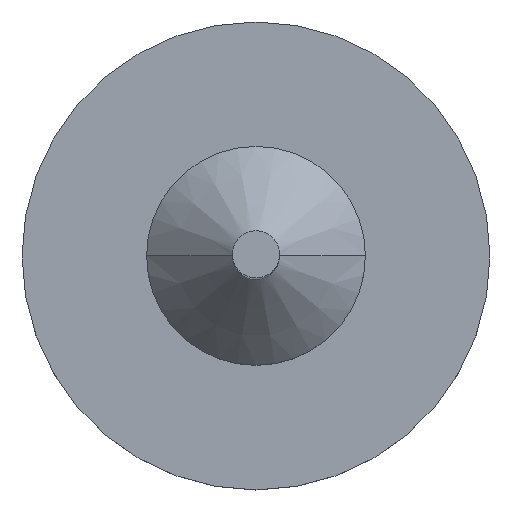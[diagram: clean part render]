
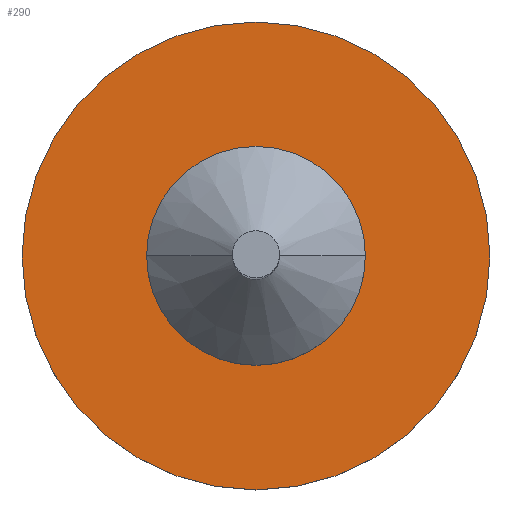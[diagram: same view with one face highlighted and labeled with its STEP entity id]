
A CAD part, top view. The second image highlights one B-rep face of the part: STEP entity #290.
In plain terms, the highlighted planar face has unit normal (0, 0, 1).
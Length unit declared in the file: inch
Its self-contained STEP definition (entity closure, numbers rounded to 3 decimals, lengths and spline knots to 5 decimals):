
#3 = VERTEX_POINT ( 'NONE', #298 ) ;
#6 = VERTEX_POINT ( 'NONE', #297 ) ;
#7 = VERTEX_POINT ( 'NONE', #296 ) ;
#10 = EDGE_CURVE ( 'NONE', #7, #3, #276, .T. ) ;
#12 = EDGE_CURVE ( 'NONE', #6, #137, #270, .T. ) ;
#38 = EDGE_LOOP ( 'NONE', ( #213, #314 ) ) ;
#137 = VERTEX_POINT ( 'NONE', #523 ) ;
#213 = ORIENTED_EDGE ( 'NONE', *, *, #12, .T. ) ;
#216 = ORIENTED_EDGE ( 'NONE', *, *, #10, .F. ) ;
#242 = EDGE_CURVE ( 'NONE', #3, #7, #739, .T. ) ;
#267 = DIRECTION ( 'NONE',  ( 1., 0., 0. ) ) ;
#268 = DIRECTION ( 'NONE',  ( 0., 0., 1. ) ) ;
#269 = AXIS2_PLACEMENT_3D ( 'NONE', #291, #268, #267 ) ;
#270 = CIRCLE ( 'NONE', #269, 0.62 ) ;
#272 = DIRECTION ( 'NONE',  ( 1., 0., 0. ) ) ;
#273 = DIRECTION ( 'NONE',  ( 0., 0., 1. ) ) ;
#274 = CARTESIAN_POINT ( 'NONE',  ( 0., 0., -0.404 ) ) ;
#275 = AXIS2_PLACEMENT_3D ( 'NONE', #274, #273, #272 ) ;
#276 = CIRCLE ( 'NONE', #275, 0.29 ) ;
#289 = EDGE_CURVE ( 'NONE', #137, #6, #673, .T. ) ;
#290 = ADVANCED_FACE ( 'NONE', ( #725, #724 ), #723, .T. ) ;
#291 = CARTESIAN_POINT ( 'NONE',  ( 0., 0., -0.404 ) ) ;
#296 = CARTESIAN_POINT ( 'NONE',  ( 0.29, 0., -0.404 ) ) ;
#297 = CARTESIAN_POINT ( 'NONE',  ( 0.62, 0., -0.404 ) ) ;
#298 = CARTESIAN_POINT ( 'NONE',  ( -0.29, 0., -0.404 ) ) ;
#311 = EDGE_LOOP ( 'NONE', ( #216, #316 ) ) ;
#314 = ORIENTED_EDGE ( 'NONE', *, *, #289, .T. ) ;
#316 = ORIENTED_EDGE ( 'NONE', *, *, #242, .F. ) ;
#523 = CARTESIAN_POINT ( 'NONE',  ( -0.62, 0., -0.404 ) ) ;
#669 = DIRECTION ( 'NONE',  ( 1., 0., 0. ) ) ;
#670 = DIRECTION ( 'NONE',  ( 0., 0., 1. ) ) ;
#671 = CARTESIAN_POINT ( 'NONE',  ( 0., 0., -0.404 ) ) ;
#672 = AXIS2_PLACEMENT_3D ( 'NONE', #671, #670, #669 ) ;
#673 = CIRCLE ( 'NONE', #672, 0.62 ) ;
#693 = DIRECTION ( 'NONE',  ( 1., 0., 0. ) ) ;
#694 = DIRECTION ( 'NONE',  ( 0., 0., 1. ) ) ;
#695 = CARTESIAN_POINT ( 'NONE',  ( 0., 0., -0.404 ) ) ;
#719 = DIRECTION ( 'NONE',  ( 1., 0., 0. ) ) ;
#720 = DIRECTION ( 'NONE',  ( 0., 0., 1. ) ) ;
#721 = AXIS2_PLACEMENT_3D ( 'NONE', #722, #720, #719 ) ;
#722 = CARTESIAN_POINT ( 'NONE',  ( 0.62, 0., -0.404 ) ) ;
#723 = PLANE ( 'NONE',  #721 ) ;
#724 = FACE_BOUND ( 'NONE', #311, .T. ) ;
#725 = FACE_OUTER_BOUND ( 'NONE', #38, .T. ) ;
#738 = AXIS2_PLACEMENT_3D ( 'NONE', #695, #694, #693 ) ;
#739 = CIRCLE ( 'NONE', #738, 0.29 ) ;
